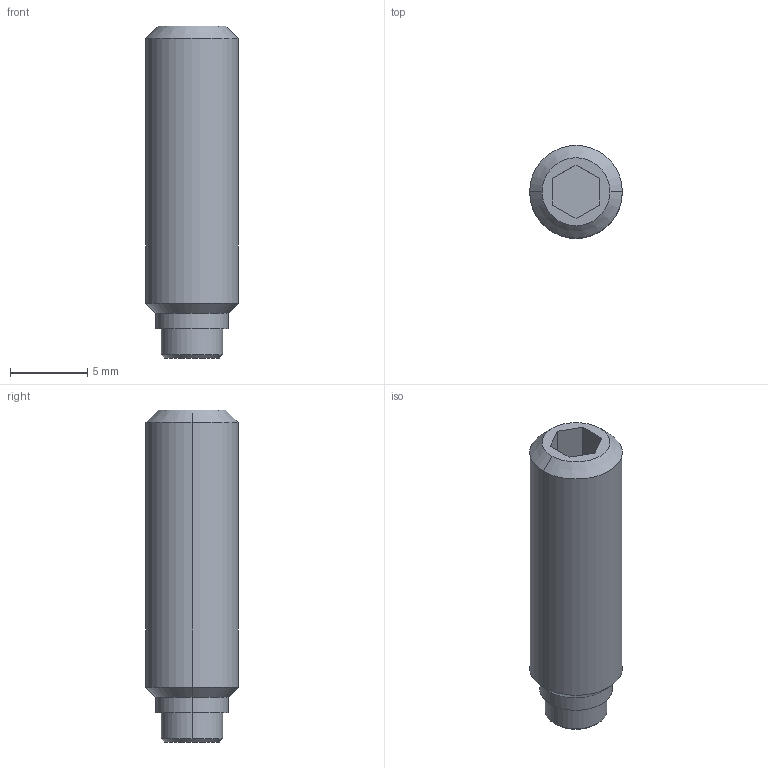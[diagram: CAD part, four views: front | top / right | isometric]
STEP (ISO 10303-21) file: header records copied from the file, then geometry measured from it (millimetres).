
FILE_DESCRIPTION (( 'STEP AP203' ), '1' );
FILE_NAME ('hssb06x21_5-sus.STEP', '2021-10-26T01:20:21', ( '' ), ( '' ), 'SwSTEP 2.0', 'SolidWorks 2020', '' );
FILE_SCHEMA (( 'CONFIG_CONTROL_DESIGN' ));
Length unit declared in the file: millimetre
Products named in the file (1): hssb06x21_5-sus
Bounding box: 6 x 6 x 21.5 mm (x, y, z)
Volume: 530.4 mm3; surface area: 463.2 mm2
Topology: 1 solids, 1 shells, 22 faces, 46 edges, 28 vertices
Faces by surface type: plane 10, cone 6, cylinder 6
Entity records: 659 total; most frequent: DIRECTION 108, CARTESIAN_POINT 97, ORIENTED_EDGE 92, EDGE_CURVE 46, AXIS2_PLACEMENT_3D 39, VECTOR 30, LINE 30, VERTEX_POINT 28
